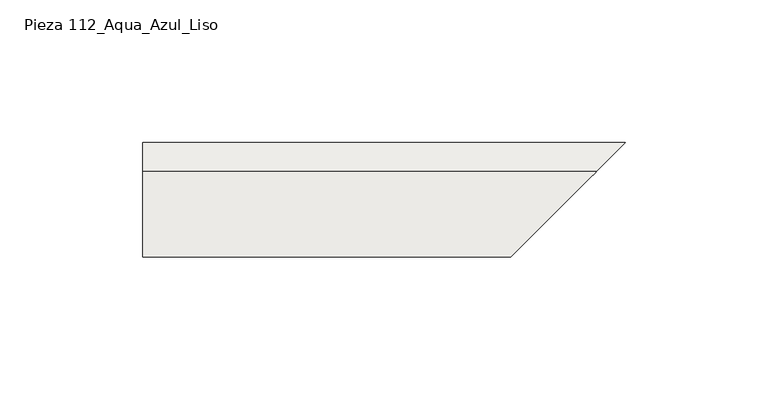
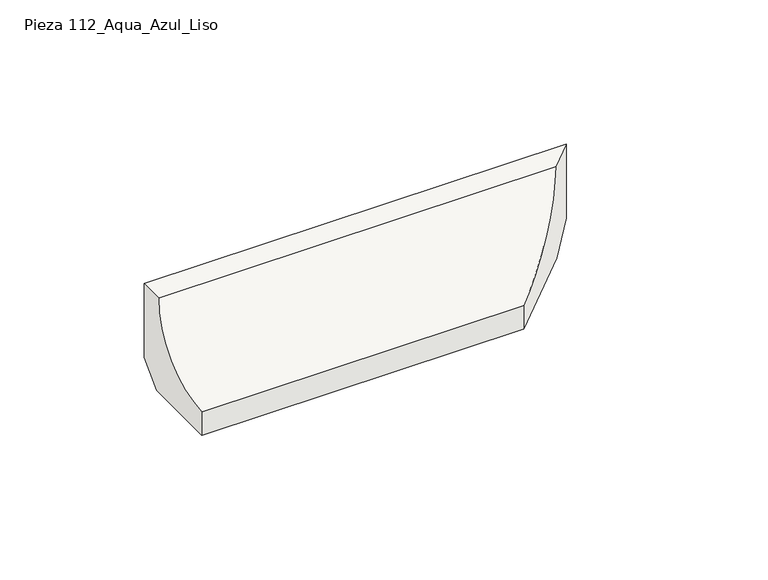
"""IFC4 building model written with IfcOpenShell, lengths in millimetres: slab geometry, ROSA GRES_112 (corte) : Pieza 112_Aqua_Azul_Liso."""

from ifc_helpers import new_model, si_unit, frame, origin, place, context, project, spatial, polyline, circle_curve, ellipse_curve, source, transform, mapped, element, save
from ifc_brep_helpers import plane_surface, revolved_surface, advanced_brep


def pieza_112_aqua_azul_liso_ec9f14e8(model_context):
    return source(origin(), model_context, "Body", "AdvancedBrep", [
        advanced_brep(
        [(0.0, 0.0, 8.7114978), (0.0, -8.7114978, 0.0), (0.0, -40.0, 0.0), (0.0, -40.0, 9.9734114), (0.0, -9.9734114, 40.0), (0.0, 0.0, 40.0), (168.8, 0.0, 40.0), (168.8, 0.0, 8.7114978), (158.8265886, -9.9734114, 40.0), (128.8, -40.0, 9.9734114), (128.8, -40.0, 0.0), (160.0885022, -8.7114978, 0.0)],
        [
            (0, 1),
            (1, 2),
            (2, 3),
            (3, 4, circle_curve(frame((0.0, -39.9955547, 39.9955547), z_axis=(1.0, 0.0, 0.0), x_axis=(0.0, -1.0, 0.0)), 30.0221435)),
            (4, 5),
            (5, 0),
            (5, 6),
            (6, 7),
            (7, 0),
            (4, 8),
            (8, 6),
            (3, 9),
            (9, 8, ellipse_curve(frame((128.8044453, -39.9955547, 39.9955547), z_axis=(0.7071067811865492, -0.7071067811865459, 0.0), x_axis=(0.7071067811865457, 0.7071067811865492, 0.0)), 42.4577226, 30.0221435)),
            (2, 10),
            (10, 9),
            (1, 11),
            (11, 10),
            (7, 11),
        ],
        [
            plane_surface(frame((0.0, 0.0, 0.0), z_axis=(-1.0, 0.0, 0.0), x_axis=(0.0, 0.0, 1.0))),
            plane_surface(frame((0.0, 0.0, 8.7114978), z_axis=(0.0, 1.0, 0.0), x_axis=(1.0, 0.0, 0.0))),
            plane_surface(frame((0.0, 0.0, 40.0), z_axis=(0.0, 0.0, 1.0), x_axis=(1.0, 0.0, 0.0))),
            revolved_surface(polyline([(158.82658886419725, -70.0176982, 39.9955547), (0.0, -70.0176982, 39.9955547)]), (0.0, -39.9955547, 39.9955547), (1.0, 0.0, 0.0)),
            plane_surface(frame((0.0, -40.0, 9.9734114), z_axis=(0.0, -1.0, 0.0), x_axis=(1.0, 0.0, 0.0))),
            plane_surface(frame((0.0, -40.0, 0.0), z_axis=(0.0, 0.0, -1.0), x_axis=(1.0, 0.0, 0.0))),
            plane_surface(frame((0.0, -8.7114978, 0.0), z_axis=(0.0, 0.7071067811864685, -0.7071067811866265), x_axis=(1.0, 0.0, 0.0))),
            plane_surface(frame((128.3, -40.5, 104.9871832), z_axis=(0.7071067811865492, -0.7071067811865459, 0.0), x_axis=(0.0, 0.0, -1.0))),
        ],
        [
            (0, [[1, 2, 3, 4, 5, 6]]),
            (1, [[7, 8, 9, -6]]),
            (2, [[10, 11, -7, -5]]),
            (3, [[12, 13, -10, -4]]),
            (4, [[14, 15, -12, -3]]),
            (5, [[16, 17, -14, -2]]),
            (6, [[-9, 18, -16, -1]]),
            (7, [[-11, -13, -15, -17, -18, -8]]),
        ],
    ),
    ])


if __name__ == "__main__":
    model = new_model("IFC4")
    model_context = context("Model", 3, world=origin())
    ifc_project = project(units=[si_unit("LENGTHUNIT", "METRE", prefix="MILLI")], contexts=[model_context])
    site = spatial("IfcSite", under=ifc_project)
    building = spatial("IfcBuilding", under=site)
    placement = place(None, origin())
    pieza_112_aqua_azul_liso_shape = pieza_112_aqua_azul_liso_ec9f14e8(model_context)
    element("IfcSlab", 1, ObjectType="ROSA GRES_112 (corte) : Pieza 112_Aqua_Azul_Liso", at=placement, inside=building, context=model_context, shape_type="MappedRepresentation", body=[
        mapped(pieza_112_aqua_azul_liso_shape, transform((0.0, 0.0, 0.0), x_axis=(1.0, 0.0, 0.0), y_axis=(0.0, 1.0, 0.0), z_axis=(0.0, 0.0, 1.0))),
    ])
    save(model, "model.ifc")
